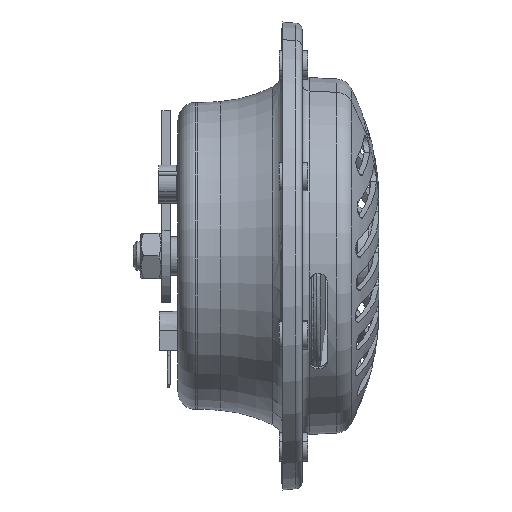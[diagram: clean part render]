
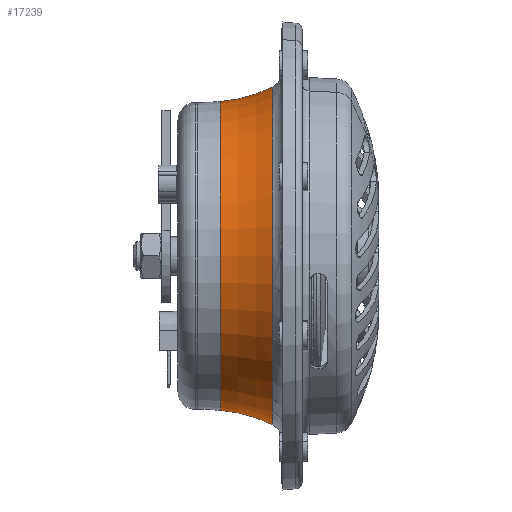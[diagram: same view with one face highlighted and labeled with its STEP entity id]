
A CAD part, left-side view. The second image highlights one B-rep face of the part: STEP entity #17239.
In plain terms, the highlighted toroidal (fillet/blend) face has major radius 83.175 mm and minor radius 40 mm.
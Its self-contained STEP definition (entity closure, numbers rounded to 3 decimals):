
#16530=AXIS2_PLACEMENT_3D('Circle Axis2P3D',#16528,#16529,$) ;
#16537=AXIS2_PLACEMENT_3D('Circle Axis2P3D',#16535,#16536,$) ;
#16739=AXIS2_PLACEMENT_3D('Circle Axis2P3D',#16737,#16738,$) ;
#17195=AXIS2_PLACEMENT_3D('Circle Axis2P3D',#17193,#17194,$) ;
#17200=AXIS2_PLACEMENT_3D('Circle Axis2P3D',#17198,#17199,$) ;
#17216=AXIS2_PLACEMENT_3D('Torus Axis2P3D',#17213,#17214,#17215) ;
#17220=AXIS2_PLACEMENT_3D('Circle Axis2P3D',#17218,#17219,$) ;
#17227=AXIS2_PLACEMENT_3D('Circle Axis2P3D',#17225,#17226,$) ;
#16525=CARTESIAN_POINT('Vertex',(63.75,3.472,47.381)) ;
#16528=CARTESIAN_POINT('Axis2P3D Location',(63.75,3.472,0.)) ;
#16532=CARTESIAN_POINT('Vertex',(16.369,3.472,0.)) ;
#16535=CARTESIAN_POINT('Axis2P3D Location',(63.75,3.472,0.)) ;
#16539=CARTESIAN_POINT('Vertex',(45.618,3.472,-43.774)) ;
#16737=CARTESIAN_POINT('Axis2P3D Location',(63.75,3.472,0.)) ;
#16741=CARTESIAN_POINT('Vertex',(63.75,3.472,-47.381)) ;
#17183=CARTESIAN_POINT('Vertex',(63.75,18.149,-43.301)) ;
#17190=CARTESIAN_POINT('Vertex',(63.75,18.149,43.301)) ;
#17193=CARTESIAN_POINT('Axis2P3D Location',(63.75,21.326,83.175)) ;
#17198=CARTESIAN_POINT('Axis2P3D Location',(63.75,21.326,-83.175)) ;
#17213=CARTESIAN_POINT('Axis2P3D Location',(63.75,21.326,0.)) ;
#17218=CARTESIAN_POINT('Axis2P3D Location',(63.75,18.149,0.)) ;
#17222=CARTESIAN_POINT('Vertex',(20.449,18.149,0.)) ;
#17225=CARTESIAN_POINT('Axis2P3D Location',(63.75,18.149,0.)) ;
#16529=DIRECTION('Axis2P3D Direction',(-0.,1.,0.)) ;
#16536=DIRECTION('Axis2P3D Direction',(-0.,1.,0.)) ;
#16738=DIRECTION('Axis2P3D Direction',(-0.,1.,0.)) ;
#17194=DIRECTION('Axis2P3D Direction',(-1.,0.,0.)) ;
#17199=DIRECTION('Axis2P3D Direction',(1.,-0.,0.)) ;
#17214=DIRECTION('Axis2P3D Direction',(0.,1.,0.)) ;
#17215=DIRECTION('Axis2P3D XDirection',(0.,0.,-1.)) ;
#17219=DIRECTION('Axis2P3D Direction',(0.,1.,0.)) ;
#17226=DIRECTION('Axis2P3D Direction',(0.,1.,0.)) ;
#17231=ORIENTED_EDGE('',*,*,#17224,.F.) ;
#17232=ORIENTED_EDGE('',*,*,#17229,.F.) ;
#17233=ORIENTED_EDGE('',*,*,#17202,.T.) ;
#17234=ORIENTED_EDGE('',*,*,#16743,.F.) ;
#17235=ORIENTED_EDGE('',*,*,#16541,.F.) ;
#17236=ORIENTED_EDGE('',*,*,#16534,.F.) ;
#17237=ORIENTED_EDGE('',*,*,#17197,.T.) ;
#17239=ADVANCED_FACE('HORN',(#17238),#17217,.F.) ;
#16531=CIRCLE('generated circle',#16530,47.381) ;
#16538=CIRCLE('generated circle',#16537,47.381) ;
#16740=CIRCLE('generated circle',#16739,47.381) ;
#17196=CIRCLE('generated circle',#17195,40.) ;
#17201=CIRCLE('generated circle',#17200,40.) ;
#17221=CIRCLE('generated circle',#17220,43.301) ;
#17228=CIRCLE('generated circle',#17227,43.301) ;
#17217=TOROIDAL_SURFACE('homeo Torus',#17216,83.175,40.) ;
#16534=EDGE_CURVE('',#16526,#16533,#16531,.F.) ;
#16541=EDGE_CURVE('',#16533,#16540,#16538,.F.) ;
#16743=EDGE_CURVE('',#16540,#16742,#16740,.F.) ;
#17197=EDGE_CURVE('',#16526,#17191,#17196,.F.) ;
#17202=EDGE_CURVE('',#17184,#16742,#17201,.T.) ;
#17224=EDGE_CURVE('',#17223,#17191,#17221,.T.) ;
#17229=EDGE_CURVE('',#17184,#17223,#17228,.T.) ;
#17230=EDGE_LOOP('',(#17231,#17232,#17233,#17234,#17235,#17236,#17237)) ;
#17238=FACE_OUTER_BOUND('',#17230,.T.) ;
#16526=VERTEX_POINT('',#16525) ;
#16533=VERTEX_POINT('',#16532) ;
#16540=VERTEX_POINT('',#16539) ;
#16742=VERTEX_POINT('',#16741) ;
#17184=VERTEX_POINT('',#17183) ;
#17191=VERTEX_POINT('',#17190) ;
#17223=VERTEX_POINT('',#17222) ;
